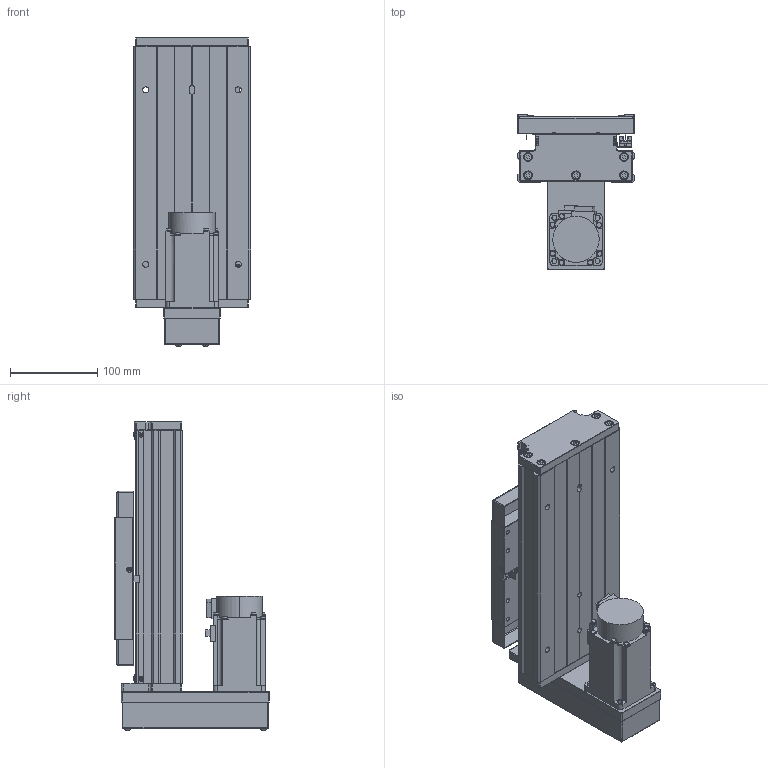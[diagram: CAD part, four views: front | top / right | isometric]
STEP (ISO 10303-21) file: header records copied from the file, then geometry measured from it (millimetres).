
FILE_DESCRIPTION (( 'STEP AP203' ), '1' );
FILE_NAME ('GTH14-50-BM-M40-C4.step', '2023-06-30T08:46:13', ( '微软用户' ), ( '微软中国' ), 'SwSTEP 2.0', 'SolidWorks 2020', '' );
FILE_SCHEMA (( 'CONFIG_CONTROL_DESIGN' ));
Length unit declared in the file: millimetre
Products named in the file (19): GBT 70.2-M4¡Á35_M4¡Á35; GTH14-004; GBT 70.1-M3℅5; GTH14-015-2_CTHA86-015-2; GTH14-005; GBT77-2000 M3×3; GTH14-033; GB1155-6X6; GTH14-031; GTH14-50-BM-M40-C4; GBT70.1 M5℅16; GBT 70.2-M3¡Á5_M3¡Á6; CTHA60-017; す晦芛蹟隊 M3℅5; GTH14-001_50; EE_SX911P_R; HG-KN43J-S100; GTH14-002_GTH14-002; CTHA60-016
Assembly tree (58 placements, depth 2):
  GTH14-50-BM-M40-C4
    GTH14-001_50
    GTH14-002_GTH14-002
    GTH14-004
    GTH14-005
    GB1155-6X6  x2
    GBT70.1 M5℅16  x10
    CTHA60-017  x3
    EE_SX911P_R  x3
    CTHA60-016  x2
    GBT 70.1-M3℅5  x6
    GBT77-2000 M3×3  x6
    GTH14-031
    GBT 70.2-M3¡Á5_M3¡Á6  x8
    す晦芛蹟隊 M3℅5  x6
    HG-KN43J-S100
    GBT 70.2-M4¡Á35_M4¡Á35  x4
    GTH14-015-2_CTHA86-015-2
    GTH14-033
Bounding box: 135 x 177.5 x 354.2 mm (x, y, z)
Volume: 2406904.7 mm3; surface area: 493944.2 mm2
Topology: 61 solids, 61 shells, 2423 faces, 5761 edges, 3546 vertices
Faces by surface type: plane 1301, cylinder 632, cone 314, torus 124, sphere 32, bspline 20
Entity records: 43234 total; most frequent: CARTESIAN_POINT 9707, DIRECTION 6309, ORIENTED_EDGE 6212, EDGE_CURVE 3106, AXIS2_PLACEMENT_3D 2140, LINE 2029, VECTOR 2029, VERTEX_POINT 1964
